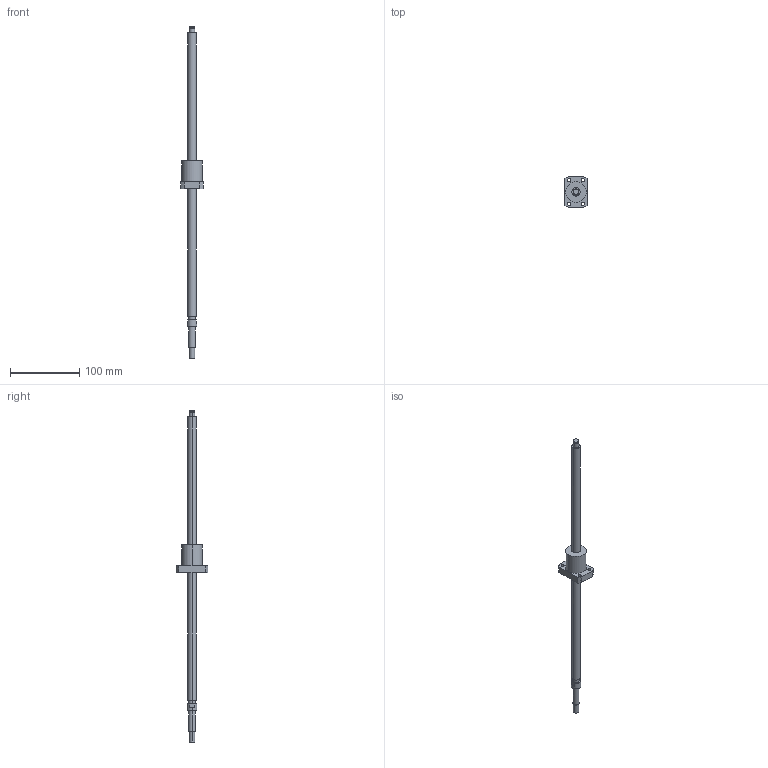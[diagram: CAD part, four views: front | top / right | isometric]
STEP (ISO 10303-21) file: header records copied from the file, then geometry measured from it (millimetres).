
FILE_DESCRIPTION((''),'2;1');
FILE_NAME('R12-5B1-FSW-410-480','2008-03-28T',('mahdi'),(''),'PRO/ENGINEER BY PARAMETRIC TECHNOLOGY CORPORATION, 2005070','PRO/ENGINEER BY PARAMETRIC TECHNOLOGY CORPORATION, 2005070','');
FILE_SCHEMA(('CONFIG_CONTROL_DESIGN'));
Length unit declared in the file: millimetre
Products named in the file (1): R12-5B1-FSW-410-480
Bounding box: 32 x 45 x 480 mm (x, y, z)
Volume: 81413.4 mm3; surface area: 23987.8 mm2
Topology: 1 solids, 1 shells, 64 faces, 144 edges, 96 vertices
Faces by surface type: cylinder 40, plane 24
Entity records: 1886 total; most frequent: DIRECTION 356, CARTESIAN_POINT 304, ORIENTED_EDGE 288, AXIS2_PLACEMENT_3D 148, EDGE_CURVE 144, VERTEX_POINT 96, EDGE_LOOP 86, CIRCLE 84
